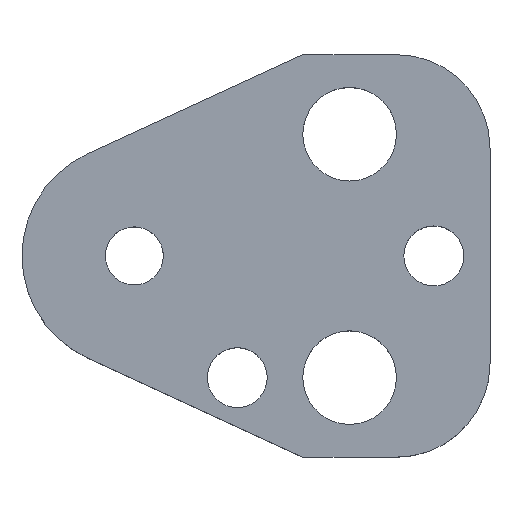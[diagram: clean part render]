
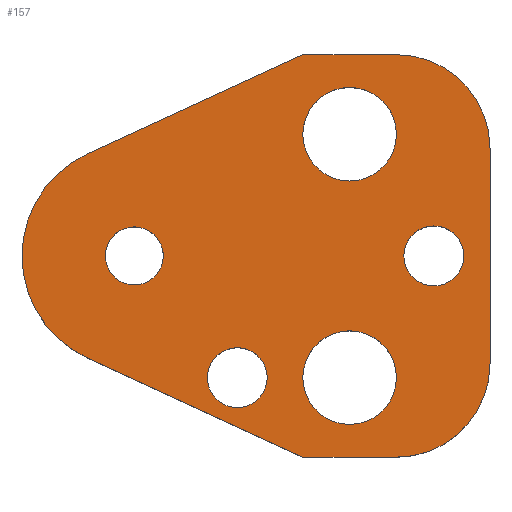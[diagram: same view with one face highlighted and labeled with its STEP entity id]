
A CAD part, top view. The second image highlights one B-rep face of the part: STEP entity #157.
In plain terms, the highlighted planar face has unit normal (0, 0, 1).
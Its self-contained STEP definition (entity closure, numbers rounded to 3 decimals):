
#103=FACE_BOUND('',#207,.T.);
#104=FACE_BOUND('',#208,.T.);
#105=FACE_BOUND('',#209,.T.);
#106=FACE_BOUND('',#210,.T.);
#107=FACE_BOUND('',#211,.T.);
#108=FACE_BOUND('',#212,.T.);
#122=CIRCLE('',#480,10.);
#124=CIRCLE('',#484,10.);
#127=CIRCLE('',#490,12.);
#138=CIRCLE('',#503,3.2);
#139=CIRCLE('',#504,3.2);
#140=CIRCLE('',#505,5.);
#141=CIRCLE('',#506,5.);
#142=CIRCLE('',#507,5.);
#143=CIRCLE('',#508,5.);
#144=CIRCLE('',#509,3.2);
#145=CIRCLE('',#510,3.2);
#146=CIRCLE('',#511,3.1);
#147=CIRCLE('',#512,3.1);
#157=ADVANCED_FACE('',(#103,#104,#105,#106,#107,#108),#174,.T.);
#174=PLANE('',#513);
#207=EDGE_LOOP('',(#273,#274,#275,#276,#277,#278,#279,#280));
#208=EDGE_LOOP('',(#281,#282));
#209=EDGE_LOOP('',(#283,#284));
#210=EDGE_LOOP('',(#285,#286));
#211=EDGE_LOOP('',(#287,#288));
#212=EDGE_LOOP('',(#289,#290));
#273=ORIENTED_EDGE('',*,*,#368,.T.);
#274=ORIENTED_EDGE('',*,*,#372,.T.);
#275=ORIENTED_EDGE('',*,*,#375,.T.);
#276=ORIENTED_EDGE('',*,*,#378,.T.);
#277=ORIENTED_EDGE('',*,*,#381,.T.);
#278=ORIENTED_EDGE('',*,*,#384,.T.);
#279=ORIENTED_EDGE('',*,*,#387,.T.);
#280=ORIENTED_EDGE('',*,*,#390,.T.);
#281=ORIENTED_EDGE('',*,*,#401,.T.);
#282=ORIENTED_EDGE('',*,*,#402,.T.);
#283=ORIENTED_EDGE('',*,*,#403,.T.);
#284=ORIENTED_EDGE('',*,*,#404,.T.);
#285=ORIENTED_EDGE('',*,*,#405,.T.);
#286=ORIENTED_EDGE('',*,*,#406,.T.);
#287=ORIENTED_EDGE('',*,*,#407,.T.);
#288=ORIENTED_EDGE('',*,*,#408,.T.);
#289=ORIENTED_EDGE('',*,*,#409,.T.);
#290=ORIENTED_EDGE('',*,*,#410,.T.);
#332=VERTEX_POINT('',#649);
#333=VERTEX_POINT('',#651);
#336=VERTEX_POINT('',#658);
#338=VERTEX_POINT('',#664);
#340=VERTEX_POINT('',#670);
#342=VERTEX_POINT('',#676);
#344=VERTEX_POINT('',#682);
#346=VERTEX_POINT('',#688);
#357=VERTEX_POINT('',#717);
#358=VERTEX_POINT('',#718);
#359=VERTEX_POINT('',#721);
#360=VERTEX_POINT('',#722);
#361=VERTEX_POINT('',#725);
#362=VERTEX_POINT('',#726);
#363=VERTEX_POINT('',#729);
#364=VERTEX_POINT('',#730);
#365=VERTEX_POINT('',#733);
#366=VERTEX_POINT('',#734);
#368=EDGE_CURVE('',#333,#332,#422,.T.);
#372=EDGE_CURVE('',#332,#336,#426,.T.);
#375=EDGE_CURVE('',#336,#338,#122,.T.);
#378=EDGE_CURVE('',#338,#340,#430,.T.);
#381=EDGE_CURVE('',#340,#342,#124,.T.);
#384=EDGE_CURVE('',#342,#344,#434,.T.);
#387=EDGE_CURVE('',#344,#346,#437,.T.);
#390=EDGE_CURVE('',#346,#333,#127,.T.);
#401=EDGE_CURVE('',#357,#358,#138,.T.);
#402=EDGE_CURVE('',#358,#357,#139,.T.);
#403=EDGE_CURVE('',#359,#360,#140,.T.);
#404=EDGE_CURVE('',#360,#359,#141,.T.);
#405=EDGE_CURVE('',#361,#362,#142,.T.);
#406=EDGE_CURVE('',#362,#361,#143,.T.);
#407=EDGE_CURVE('',#363,#364,#144,.T.);
#408=EDGE_CURVE('',#364,#363,#145,.T.);
#409=EDGE_CURVE('',#365,#366,#146,.T.);
#410=EDGE_CURVE('',#366,#365,#147,.T.);
#422=LINE('',#650,#450);
#426=LINE('',#659,#454);
#430=LINE('',#671,#458);
#434=LINE('',#683,#462);
#437=LINE('',#689,#465);
#450=VECTOR('',#527,1.);
#454=VECTOR('',#533,1.);
#458=VECTOR('',#545,1.);
#462=VECTOR('',#557,1.);
#465=VECTOR('',#562,1.);
#480=AXIS2_PLACEMENT_3D('',#665,#538,#539);
#484=AXIS2_PLACEMENT_3D('',#677,#550,#551);
#490=AXIS2_PLACEMENT_3D('',#693,#568,#569);
#503=AXIS2_PLACEMENT_3D('',#716,#594,#595);
#504=AXIS2_PLACEMENT_3D('',#719,#596,#597);
#505=AXIS2_PLACEMENT_3D('',#720,#598,#599);
#506=AXIS2_PLACEMENT_3D('',#723,#600,#601);
#507=AXIS2_PLACEMENT_3D('',#724,#602,#603);
#508=AXIS2_PLACEMENT_3D('',#727,#604,#605);
#509=AXIS2_PLACEMENT_3D('',#728,#606,#607);
#510=AXIS2_PLACEMENT_3D('',#731,#608,#609);
#511=AXIS2_PLACEMENT_3D('',#732,#610,#611);
#512=AXIS2_PLACEMENT_3D('',#735,#612,#613);
#513=AXIS2_PLACEMENT_3D('',#736,#614,#615);
#527=DIRECTION('',(0.908,-0.418,0.));
#533=DIRECTION('',(1.,0.,0.));
#538=DIRECTION('',(0.,0.,1.));
#539=DIRECTION('',(-0.707,0.707,0.));
#545=DIRECTION('',(0.,1.,0.));
#550=DIRECTION('',(0.,0.,1.));
#551=DIRECTION('',(-0.707,-0.707,0.));
#557=DIRECTION('',(-1.,0.,0.));
#562=DIRECTION('',(-0.908,-0.418,0.));
#568=DIRECTION('',(0.,0.,1.));
#569=DIRECTION('',(1.,0.,0.));
#594=DIRECTION('',(0.,0.,-1.));
#595=DIRECTION('',(-1.,0.,0.));
#596=DIRECTION('',(0.,0.,-1.));
#597=DIRECTION('',(1.,0.,0.));
#598=DIRECTION('',(0.,0.,-1.));
#599=DIRECTION('',(-1.,0.,0.));
#600=DIRECTION('',(0.,0.,-1.));
#601=DIRECTION('',(1.,0.,0.));
#602=DIRECTION('',(0.,0.,-1.));
#603=DIRECTION('',(-1.,0.,0.));
#604=DIRECTION('',(0.,0.,-1.));
#605=DIRECTION('',(1.,0.,0.));
#606=DIRECTION('',(0.,0.,-1.));
#607=DIRECTION('',(-1.,0.,0.));
#608=DIRECTION('',(0.,0.,-1.));
#609=DIRECTION('',(1.,0.,0.));
#610=DIRECTION('',(0.,0.,-1.));
#611=DIRECTION('',(-1.,0.,0.));
#612=DIRECTION('',(0.,0.,-1.));
#613=DIRECTION('',(1.,0.,0.));
#614=DIRECTION('',(0.,0.,1.));
#615=DIRECTION('',(0.908,-0.418,0.));
#649=CARTESIAN_POINT('',(18.,-21.5,9.));
#650=CARTESIAN_POINT('',(18.,-21.5,9.));
#651=CARTESIAN_POINT('',(-5.019,-10.9,9.));
#658=CARTESIAN_POINT('',(28.,-21.5,9.));
#659=CARTESIAN_POINT('',(18.,-21.5,9.));
#664=CARTESIAN_POINT('',(38.,-11.5,9.));
#665=CARTESIAN_POINT('',(28.,-11.5,9.));
#670=CARTESIAN_POINT('',(38.,11.5,9.));
#671=CARTESIAN_POINT('',(38.,11.5,9.));
#676=CARTESIAN_POINT('',(28.,21.5,9.));
#677=CARTESIAN_POINT('',(28.,11.5,9.));
#682=CARTESIAN_POINT('',(18.,21.5,9.));
#683=CARTESIAN_POINT('',(18.,21.5,9.));
#688=CARTESIAN_POINT('',(-5.019,10.9,9.));
#689=CARTESIAN_POINT('',(18.,21.5,9.));
#693=CARTESIAN_POINT('',(0.,0.,9.));
#716=CARTESIAN_POINT('',(32.,0.,9.));
#717=CARTESIAN_POINT('',(32.,3.2,9.));
#718=CARTESIAN_POINT('',(32.,-3.2,9.));
#719=CARTESIAN_POINT('',(32.,0.,9.));
#720=CARTESIAN_POINT('',(23.,13.,9.));
#721=CARTESIAN_POINT('',(23.,18.,9.));
#722=CARTESIAN_POINT('',(23.,8.,9.));
#723=CARTESIAN_POINT('',(23.,13.,9.));
#724=CARTESIAN_POINT('',(23.,-13.,9.));
#725=CARTESIAN_POINT('',(23.,-8.,9.));
#726=CARTESIAN_POINT('',(23.,-18.,9.));
#727=CARTESIAN_POINT('',(23.,-13.,9.));
#728=CARTESIAN_POINT('',(11.,-13.,9.));
#729=CARTESIAN_POINT('',(11.,-9.8,9.));
#730=CARTESIAN_POINT('',(11.,-16.2,9.));
#731=CARTESIAN_POINT('',(11.,-13.,9.));
#732=CARTESIAN_POINT('',(0.,0.,9.));
#733=CARTESIAN_POINT('',(0.,3.1,9.));
#734=CARTESIAN_POINT('',(0.,-3.1,9.));
#735=CARTESIAN_POINT('',(0.,0.,9.));
#736=CARTESIAN_POINT('',(-5.019,-10.9,9.));
